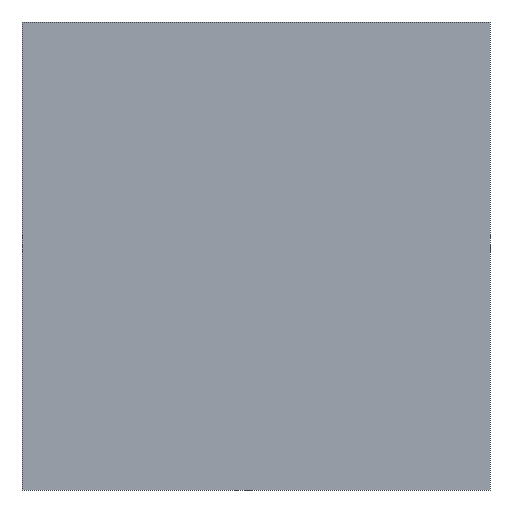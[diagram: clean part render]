
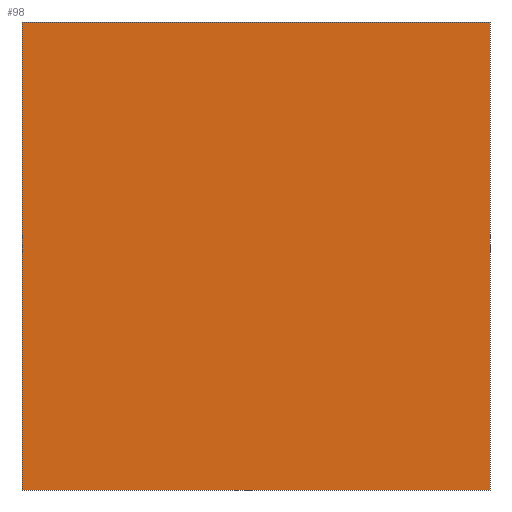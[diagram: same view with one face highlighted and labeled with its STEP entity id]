
A CAD part, front view. The second image highlights one B-rep face of the part: STEP entity #98.
In plain terms, the highlighted planar face has unit normal (0, -1, 0).
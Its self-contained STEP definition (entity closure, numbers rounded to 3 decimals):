
#92 = EDGE_CURVE( '', #128, #158, #241, .T. );
#98 = ADVANCED_FACE( '', ( #247 ), #248, .F. );
#110 = VERTEX_POINT( '', #263 );
#128 = VERTEX_POINT( '', #283 );
#148 = EDGE_CURVE( '', #158, #220, #304, .T. );
#150 = EDGE_CURVE( '', #220, #110, #306, .T. );
#154 = EDGE_CURVE( '', #110, #128, #310, .T. );
#158 = VERTEX_POINT( '', #314 );
#220 = VERTEX_POINT( '', #386 );
#241 = LINE( '', #398, #399 );
#247 = FACE_OUTER_BOUND( '', #409, .T. );
#248 = PLANE( '', #410 );
#263 = CARTESIAN_POINT( '', ( -12.5, -23.6, 12.5 ) );
#283 = CARTESIAN_POINT( '', ( 12.5, -23.6, 12.5 ) );
#304 = LINE( '', #479, #480 );
#306 = LINE( '', #483, #484 );
#310 = LINE( '', #491, #492 );
#314 = CARTESIAN_POINT( '', ( 12.5, -23.6, -12.5 ) );
#386 = CARTESIAN_POINT( '', ( -12.5, -23.6, -12.5 ) );
#398 = CARTESIAN_POINT( '', ( 12.5, -23.6, 12.5 ) );
#399 = VECTOR( '', #599, 1. );
#409 = EDGE_LOOP( '', ( #603, #604, #605, #606 ) );
#410 = AXIS2_PLACEMENT_3D( '', #607, #608, #609 );
#479 = CARTESIAN_POINT( '', ( 12.5, -23.6, -12.5 ) );
#480 = VECTOR( '', #666, 1. );
#483 = CARTESIAN_POINT( '', ( -12.5, -23.6, -12.5 ) );
#484 = VECTOR( '', #667, 1. );
#491 = CARTESIAN_POINT( '', ( -12.5, -23.6, 12.5 ) );
#492 = VECTOR( '', #669, 1. );
#599 = DIRECTION( '', ( 0., 0., -1. ) );
#603 = ORIENTED_EDGE( '', *, *, #92, .F. );
#604 = ORIENTED_EDGE( '', *, *, #154, .F. );
#605 = ORIENTED_EDGE( '', *, *, #150, .F. );
#606 = ORIENTED_EDGE( '', *, *, #148, .F. );
#607 = CARTESIAN_POINT( '', ( 0., -23.6, 0. ) );
#608 = DIRECTION( '', ( 0., 1., 0. ) );
#609 = DIRECTION( '', ( 0., 0., 1. ) );
#666 = DIRECTION( '', ( -1., 0., 0. ) );
#667 = DIRECTION( '', ( 0., 0., 1. ) );
#669 = DIRECTION( '', ( 1., 0., 0. ) );
